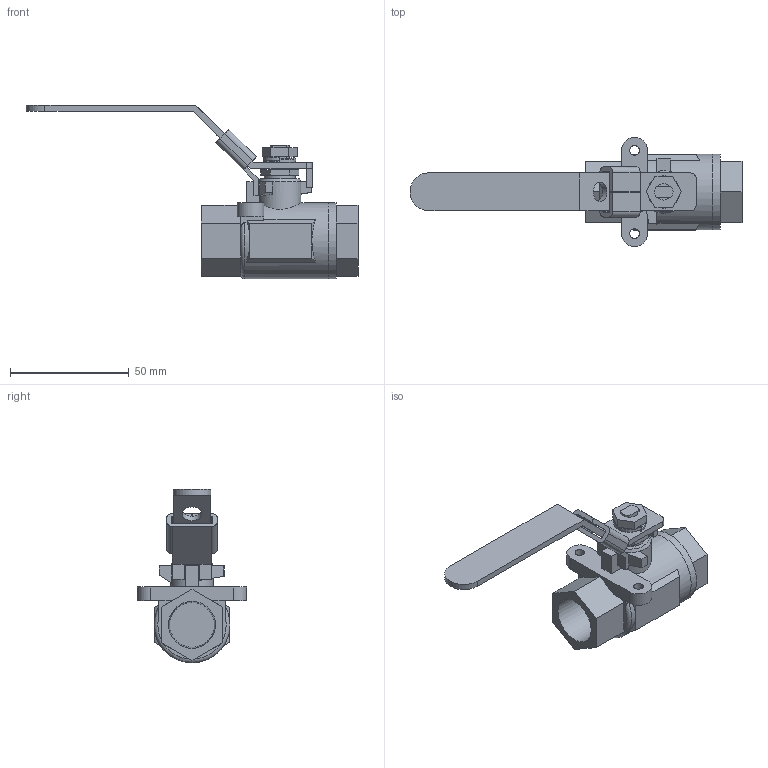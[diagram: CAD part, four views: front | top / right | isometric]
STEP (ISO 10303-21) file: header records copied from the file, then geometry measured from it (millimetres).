
FILE_DESCRIPTION((' '),'2;1');
FILE_NAME('N:\Technical Support\Private\Jomar Valve CAD\Ball Valves\CS and SS\1001N\.5 T-CS[SS]-1001N (100-973 [100-963]) FusionCopy.stp.step','2016-07-05T11:59:30',(' '),(' '),' ','ACIS',' ');
FILE_SCHEMA(('CONFIG_CONTROL_DESIGN'));
Length unit declared in the file: inch
Products named in the file (9): N:\Technical Support\Private\Jomar Valve CAD\Ball Valves\CS and SS\1001N\.5 T-CS[SS]-1001N (100-973 [100-963]) FusionCopy.stp.step; Body1; Body2; Body3; Body4; Body5; Body6; Body7; Body8
Assembly tree (8 placements, depth 2):
  N:\Technical Support\Private\Jomar Valve CAD\Ball Valves\CS and SS\1001N\.5 T-CS[SS]-1001N (100-973 [100-963]) FusionCopy.stp.step
    Body1
    Body2
    Body3
    Body4
    Body5
    Body6
    Body7
    Body8
Bounding box: 140.07 x 46.02 x 73.24 mm (x, y, z)
Volume: 53710.1 mm3; surface area: 21494.1 mm2
Topology: 8 solids, 8 shells, 176 faces, 454 edges, 296 vertices
Faces by surface type: plane 116, cylinder 27, bspline 16, cone 12, torus 5
Full cylindrical faces by diameter (mm): 4.064 x1, 6.858 x1, 8.128 x1, 8.89 x1, 9.271 x1, 13.081 x1, 32.004 x2
Entity records: 6555 total; most frequent: CARTESIAN_POINT 1084, DIRECTION 872, ORIENTED_EDGE 860, EDGE_CURVE 430, VECTOR 312, LINE 312, VERTEX_POINT 287, AXIS2_PLACEMENT_3D 280
